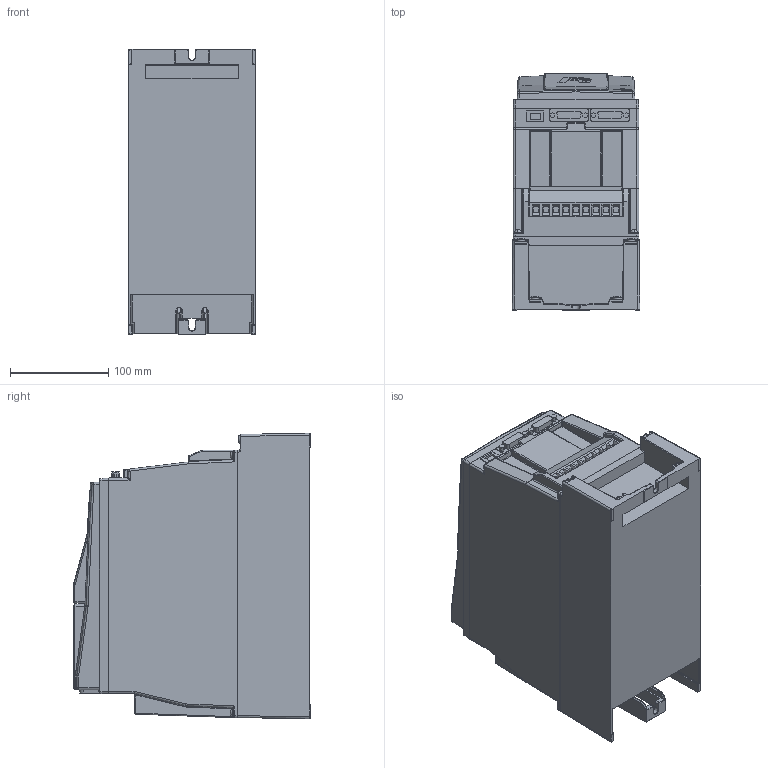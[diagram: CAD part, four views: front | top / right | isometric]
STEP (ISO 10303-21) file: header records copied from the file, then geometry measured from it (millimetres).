
FILE_DESCRIPTION (( 'STEP AP214' ), '1' );
FILE_NAME ('F6-2TR0-K000.STEP', '2020-11-26T11:22:47', ( '' ), ( '' ), 'SwSTEP 2.0', 'SolidWorks 2019', '' );
FILE_SCHEMA (( 'AUTOMOTIVE_DESIGN' ));
Length unit declared in the file: millimetre
Products named in the file (1): F6-2TR0-K000
Bounding box: 130 x 240 x 290 mm (x, y, z)
Volume: 7084876.4 mm3; surface area: 300463.8 mm2
Topology: 2 solids, 2 shells, 1342 faces, 3324 edges, 1977 vertices
Faces by surface type: plane 582, cylinder 382, bspline 239, sphere 60, torus 55, cone 24
Entity records: 47251 total; most frequent: CARTESIAN_POINT 17861, ORIENTED_EDGE 6504, DIRECTION 5499, EDGE_CURVE 3252, VERTEX_POINT 1977, AXIS2_PLACEMENT_3D 1866, VECTOR 1767, LINE 1767
